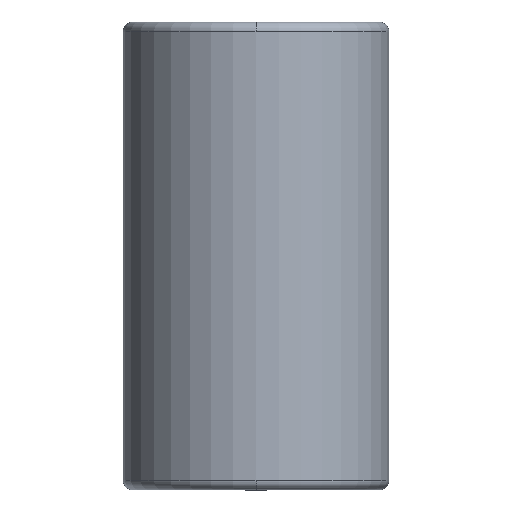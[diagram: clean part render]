
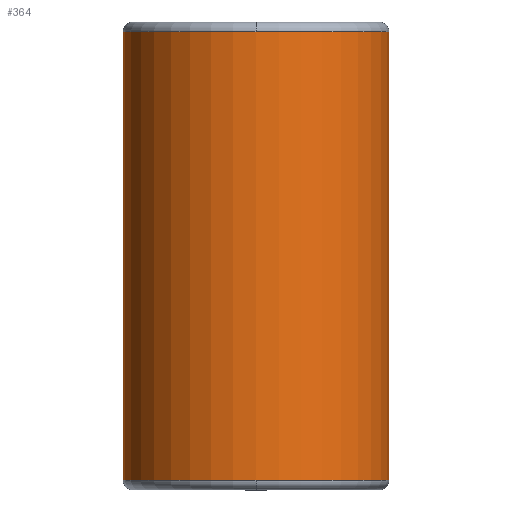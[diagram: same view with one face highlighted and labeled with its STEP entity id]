
A CAD part, front view. The second image highlights one B-rep face of the part: STEP entity #364.
In plain terms, the highlighted cylindrical face has radius 26.993 mm (diameter 53.986 mm), a partial arc.
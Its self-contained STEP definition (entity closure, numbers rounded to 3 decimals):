
#269=CARTESIAN_POINT('',(0.0,-26.993,93.));
#270=VERTEX_POINT('',#269);
#296=CARTESIAN_POINT('',(-26.993,0.,93.));
#297=VERTEX_POINT('',#296);
#305=CARTESIAN_POINT('',(0.0,0.,93.));
#306=DIRECTION('',(0.0,0.0,1.0));
#307=DIRECTION('',(1.0,0.0,0.0));
#308=AXIS2_PLACEMENT_3D('',#305,#306,#307);
#309=CIRCLE('',#308,26.993);
#310=EDGE_CURVE('',#297,#270,#309,.T.);
#315=CARTESIAN_POINT('',(0.0,0.,47.5));
#316=DIRECTION('',(0.0,0.,1.0));
#317=DIRECTION('',(1.0,0.0,0.0));
#318=AXIS2_PLACEMENT_3D('',#315,#316,#317);
#319=CYLINDRICAL_SURFACE('',#318,26.993);
#320=CARTESIAN_POINT('',(26.993,0.,93.));
#321=VERTEX_POINT('',#320);
#322=CARTESIAN_POINT('',(26.993,0.,2.));
#323=VERTEX_POINT('',#322);
#324=CARTESIAN_POINT('',(26.993,0.,93.));
#325=DIRECTION('',(0.0,0.0,-1.0));
#326=VECTOR('',#325,91.);
#327=LINE('',#324,#326);
#328=EDGE_CURVE('',#321,#323,#327,.T.);
#329=ORIENTED_EDGE('',*,*,#328,.F.);
#330=CARTESIAN_POINT('',(0.0,0.,93.));
#331=DIRECTION('',(0.0,0.0,1.0));
#332=DIRECTION('',(1.0,0.0,0.0));
#333=AXIS2_PLACEMENT_3D('',#330,#331,#332);
#334=CIRCLE('',#333,26.993);
#335=EDGE_CURVE('',#270,#321,#334,.T.);
#336=ORIENTED_EDGE('',*,*,#335,.F.);
#337=ORIENTED_EDGE('',*,*,#310,.F.);
#338=CARTESIAN_POINT('',(-26.993,0.,2.0));
#339=VERTEX_POINT('',#338);
#340=CARTESIAN_POINT('',(-26.993,0.,93.));
#341=DIRECTION('',(0.0,0.0,-1.0));
#342=VECTOR('',#341,91.);
#343=LINE('',#340,#342);
#344=EDGE_CURVE('',#297,#339,#343,.T.);
#345=ORIENTED_EDGE('',*,*,#344,.T.);
#346=CARTESIAN_POINT('',(0.0,-26.993,2.));
#347=VERTEX_POINT('',#346);
#348=CARTESIAN_POINT('',(0.0,0.,2.0));
#349=DIRECTION('',(0.0,0.0,1.0));
#350=DIRECTION('',(1.0,0.0,0.0));
#351=AXIS2_PLACEMENT_3D('',#348,#349,#350);
#352=CIRCLE('',#351,26.993);
#353=EDGE_CURVE('',#339,#347,#352,.T.);
#354=ORIENTED_EDGE('',*,*,#353,.T.);
#355=CARTESIAN_POINT('',(0.0,0.,2.0));
#356=DIRECTION('',(0.0,0.0,1.0));
#357=DIRECTION('',(1.0,0.0,0.0));
#358=AXIS2_PLACEMENT_3D('',#355,#356,#357);
#359=CIRCLE('',#358,26.993);
#360=EDGE_CURVE('',#347,#323,#359,.T.);
#361=ORIENTED_EDGE('',*,*,#360,.T.);
#362=EDGE_LOOP('',(#329,#336,#337,#345,#354,#361));
#363=FACE_OUTER_BOUND('',#362,.T.);
#364=ADVANCED_FACE('',(#363),#319,.T.);
